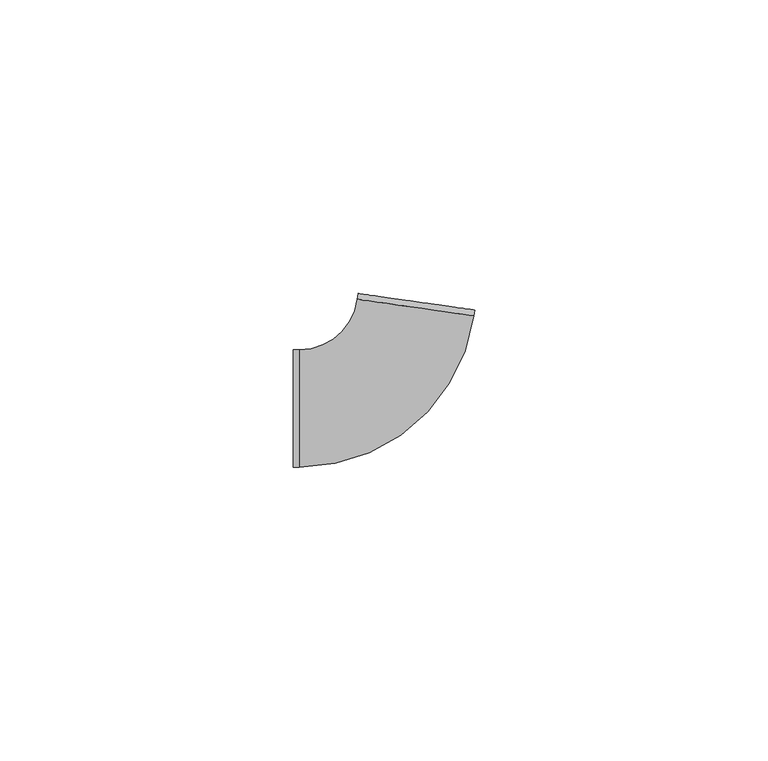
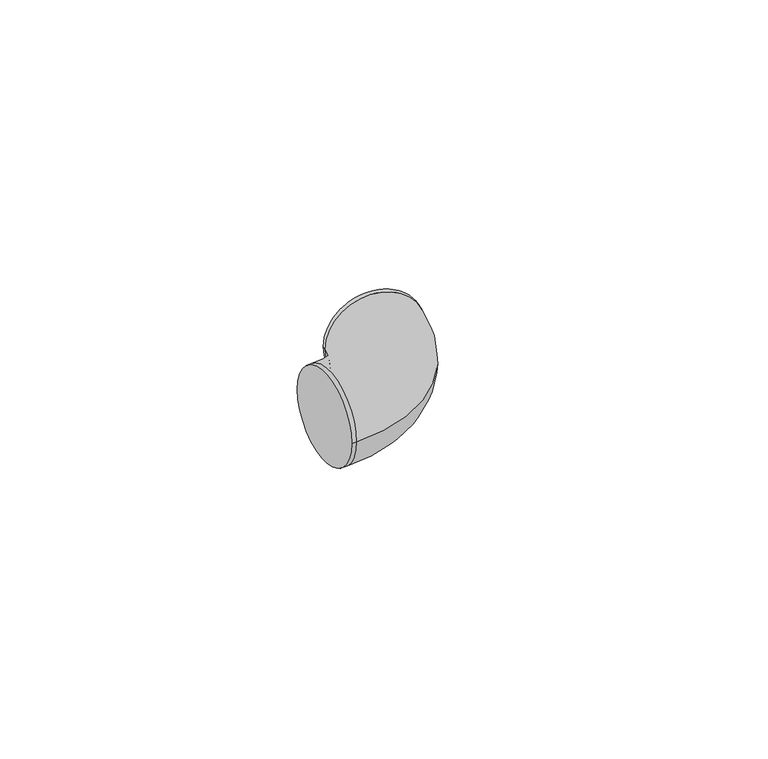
"""IFC4 building model written with IfcOpenShell, lengths in millimetres: cable carrier fitting geometry, ADSK_Поворот_Минимальный размер : Неспецифицируемый."""

import ifcopenshell
import ifcopenshell.guid

model = None  # the IFC model being written
_history = None  # IfcOwnerHistory: only IFC2X3 demands one
_inside = {}  # id of a spatial element -> (the spatial element, [elements in it])
_under = {}  # id of a project, library or spatial element -> (it, [spatial elements below it])
_declared = {}  # id of a project -> (the project, [libraries it declares])
_typed = {}  # id of a type object -> (the type object, [elements of that type])
_made_of = {}  # id of a material, layer set ... -> (it, [elements and type objects made of it])


def new_model(schema):
    """Start an empty IFC model of exactly this schema.

    Asked for "IFC4X3", IfcOpenShell would pick the latest addendum, in which some entities
    have other attributes; the version numbers below select the first issue.
    IFC2X3 requires an IfcOwnerHistory on every rooted entity: one is made here for all.
    """
    global model, _history
    if schema == "IFC4X3":
        model = ifcopenshell.file(schema_version=(4, 3, 0, 0))
    else:
        model = ifcopenshell.file(schema=schema)
    _inside.clear()
    _under.clear()
    _declared.clear()
    _typed.clear()
    _made_of.clear()
    _history = None
    if model.schema == "IFC2X3":
        org = make("IfcOrganization", Name="unknown")
        user = make(
            "IfcPersonAndOrganization",
            ThePerson=make("IfcPerson", FamilyName="unknown"),
            TheOrganization=org,
        )
        app = make(
            "IfcApplication",
            ApplicationDeveloper=org,
            Version="unknown",
            ApplicationFullName="unknown",
            ApplicationIdentifier="unknown",
        )
        _history = make(
            "IfcOwnerHistory",
            OwningUser=user,
            OwningApplication=app,
            ChangeAction="ADDED",
            CreationDate=0,
        )
    return model


def make(cls, **values):
    """One entity of the class cls with the attributes given. An attribute that is None is left unset."""
    return model.create_entity(
        cls, **{name: value for name, value in values.items() if value is not None}
    )


def rooted(cls, **values):
    """An entity with a GlobalId (a new one), such as an element, a storey or a relation."""
    return make(cls, GlobalId=ifcopenshell.guid.new(), OwnerHistory=_history, **values)


def si_unit(unit_type, name, prefix=None):
    """IfcSIUnit, for example si_unit("LENGTHUNIT", "METRE", prefix="MILLI")."""
    return make("IfcSIUnit", UnitType=unit_type, Prefix=prefix, Name=name)


def assignment(units):
    """IfcUnitAssignment: the units of a project."""
    return None if units is None else make("IfcUnitAssignment", Units=units)


def point(xyz):
    """IfcCartesianPoint."""
    return None if xyz is None else make("IfcCartesianPoint", Coordinates=xyz)


def direction(xyz):
    """IfcDirection."""
    return None if xyz is None else make("IfcDirection", DirectionRatios=xyz)


def frame(location, z_axis=None, x_axis=None):
    """IfcAxis2Placement3D, a coordinate frame: its origin and axes. An axis left out is left unset."""
    return make(
        "IfcAxis2Placement3D",
        Location=point(location),
        Axis=direction(z_axis),
        RefDirection=direction(x_axis),
    )


def origin():
    """The frame at (0, 0, 0) with its axes left unset."""
    return frame((0.0, 0.0, 0.0))


def place(relative_to, where):
    """IfcLocalPlacement: puts the frame where relative to a parent placement (None: the world)."""
    return make(
        "IfcLocalPlacement", PlacementRelTo=relative_to, RelativePlacement=where
    )


def context(
    kind, dimensions, precision=None, world=None, true_north=None, identifier=None
):
    """IfcGeometricRepresentationContext, for example the 3D "Model" context."""
    return make(
        "IfcGeometricRepresentationContext",
        ContextIdentifier=identifier,
        ContextType=kind,
        CoordinateSpaceDimension=dimensions,
        Precision=precision,
        WorldCoordinateSystem=world,
        TrueNorth=true_north,
    )


def project(units=None, contexts=None):
    """IfcProject with its units and contexts."""
    return rooted(
        "IfcProject",
        Name="project",
        RepresentationContexts=contexts,
        UnitsInContext=assignment(units),
    )


def spatial(cls, under=None, at=None, **own):
    """A site, building, storey or space (cls), placed at a placement, below another one or the project."""
    s = rooted(cls, ObjectPlacement=at, **own)
    if under is not None:
        _under.setdefault(under.id(), (under, []))[1].append(s)
    return s


def circle_curve(where, radius):
    """IfcCircle in the frame where."""
    return make("IfcCircle", Position=where, Radius=radius)


def ellipse_curve(where, semi_axis1, semi_axis2):
    """IfcEllipse in the frame where."""
    return make(
        "IfcEllipse", Position=where, SemiAxis1=semi_axis1, SemiAxis2=semi_axis2
    )


def trimmed(basis, trim1, trim2, sense, master):
    """IfcTrimmedCurve: the piece of a basis curve between two trims."""
    return make(
        "IfcTrimmedCurve",
        BasisCurve=basis,
        Trim1=trim1,
        Trim2=trim2,
        SenseAgreement=sense,
        MasterRepresentation=master,
    )


def shape(context_of_items, identifier, shape_type, items):
    """IfcShapeRepresentation: the items that make up one representation, for example the "Body"."""
    return make(
        "IfcShapeRepresentation",
        ContextOfItems=context_of_items,
        RepresentationIdentifier=identifier,
        RepresentationType=shape_type,
        Items=items,
    )


def source(mapping_origin, context_of_items, identifier, shape_type, items):
    """IfcRepresentationMap: a shape defined once, which mapped items show again and again."""
    return make(
        "IfcRepresentationMap",
        MappingOrigin=mapping_origin,
        MappedRepresentation=shape(context_of_items, identifier, shape_type, items),
    )


def transform(
    local_origin,
    x_axis=None,
    y_axis=None,
    z_axis=None,
    scale=None,
    scale2=None,
    scale3=None,
    uniform=True,
):
    """IfcCartesianTransformationOperator3D, or its non-uniform kind. x_axis, y_axis, z_axis: its Axis1, 2, 3."""
    if uniform:
        return make(
            "IfcCartesianTransformationOperator3D",
            Axis1=direction(x_axis),
            Axis2=direction(y_axis),
            LocalOrigin=point(local_origin),
            Scale=scale,
            Axis3=direction(z_axis),
        )
    return make(
        "IfcCartesianTransformationOperator3DnonUniform",
        Axis1=direction(x_axis),
        Axis2=direction(y_axis),
        LocalOrigin=point(local_origin),
        Scale=scale,
        Axis3=direction(z_axis),
        Scale2=scale2,
        Scale3=scale3,
    )


def mapped(mapping_source, mapping_target):
    """IfcMappedItem: shows the shape of a source again, moved by a transform."""
    return make(
        "IfcMappedItem", MappingSource=mapping_source, MappingTarget=mapping_target
    )


def made_of(thing, what):
    """Note that an element or type object is made of a material, layer set ...; save() writes the relation."""
    if what is not None:
        _made_of.setdefault(what.id(), (what, []))[1].append(thing)
    return thing


def element(
    cls,
    number,
    at=None,
    inside=None,
    cuts=None,
    type_object=None,
    material=None,
    context=None,
    identifier="Body",
    shape_type=None,
    held_by="IfcProductDefinitionShape",
    body=None,
    shapes=None,
    **own,
):
    """One element of the class cls, such as IfcWall. Its Tag is "e" and its number.

    at: its placement. inside: the storey or other place that contains it. cuts: it is an
    opening in that element (IfcRelVoidsElement). A single representation is given by context,
    identifier, shape_type and body (its items); several are given by shapes. held_by: the class
    of the entity that holds the representations. save() writes the other relations.
    """
    e = rooted(cls, Tag="e%d" % number, ObjectPlacement=at, **own)
    if body is not None:
        shapes = [shape(context, identifier, shape_type, body)]
    if shapes is not None:
        e.Representation = make(held_by, Representations=shapes)
    if inside is not None:
        _inside.setdefault(inside.id(), (inside, []))[1].append(e)
    if cuts is not None:
        rooted(
            "IfcRelVoidsElement", RelatingBuildingElement=cuts, RelatedOpeningElement=e
        )
    if type_object is not None:
        _typed.setdefault(type_object.id(), (type_object, []))[1].append(e)
    return made_of(e, material)


def aggregate(whole, parts):
    """IfcRelAggregates: a whole, such as a stair, and the parts it consists of."""
    return rooted("IfcRelAggregates", RelatingObject=whole, RelatedObjects=parts)


def save(model, path):
    """Write the relations noted so far, then the file.

    IfcRelAggregates (storeys below a building ...), IfcRelContainedInSpatialStructure (elements
    in a storey), IfcRelDefinesByType, IfcRelAssociatesMaterial and IfcRelDeclares: one each for
    every whole, place, type object, material and project.
    """
    for whole, parts in _under.values():
        aggregate(whole, parts)
    for where, things in _inside.values():
        rooted(
            "IfcRelContainedInSpatialStructure",
            RelatedElements=things,
            RelatingStructure=where,
        )
    for kind, things in _typed.values():
        rooted("IfcRelDefinesByType", RelatedObjects=things, RelatingType=kind)
    for what, things in _made_of.values():
        rooted("IfcRelAssociatesMaterial", RelatedObjects=things, RelatingMaterial=what)
    for by, libraries in _declared.values():
        rooted("IfcRelDeclares", RelatingContext=by, RelatedDefinitions=libraries)
    model.write(path)


def plane_surface(at):
    """IfcPlane: the flat surface through the origin of the frame at, square to its z axis."""
    return make("IfcPlane", Position=at)


def cylinder_surface(at, radius):
    """IfcCylindricalSurface: all points at the distance radius from the z axis of the frame at."""
    return make("IfcCylindricalSurface", Position=at, Radius=radius)


def revolved_surface(curve, axis_point, axis_direction):
    """IfcSurfaceOfRevolution: the curve turned about the line through axis_point along axis_direction."""
    return make(
        "IfcSurfaceOfRevolution",
        SweptCurve=make("IfcArbitraryOpenProfileDef", ProfileType="CURVE", Curve=curve),
        AxisPosition=make("IfcAxis1Placement", Location=point(axis_point), Axis=direction(axis_direction)),
    )


def advanced_brep(points, edges, surfaces, faces):
    """IfcAdvancedBrep: a solid bounded by faces that lie on surfaces and meet in shared edges.

    An edge is (start, end): straight between two places in points (the first is 0);
    or (start, end, curve); or (start, end, curve, False) where it runs against its curve.
    A face is (place in surfaces, loops), or (place, loops, False) where it looks against
    its surface's normal. A loop lists edges by number (the first is 1), with a minus sign
    where the edge is run from its end to its start. The first loop is the outer one.
    """
    corners = [point(p) for p in points]
    vertices = [make("IfcVertexPoint", VertexGeometry=c) for c in corners]
    made = []
    for start, end, *more in edges:
        made.append(
            make(
                "IfcEdgeCurve",
                EdgeStart=vertices[start],
                EdgeEnd=vertices[end],
                EdgeGeometry=more[0] if more else make("IfcPolyline", Points=[corners[start], corners[end]]),
                SameSense=more[1] if len(more) > 1 else True,
            )
        )
    hull = []
    for where, loops, *sense in faces:
        bounds = []
        for j, loop in enumerate(loops):
            ring = [make("IfcOrientedEdge", EdgeElement=made[abs(k) - 1], Orientation=k > 0) for k in loop]
            bounds.append(
                make(
                    "IfcFaceOuterBound" if j == 0 else "IfcFaceBound",
                    Bound=make("IfcEdgeLoop", EdgeList=ring),
                    Orientation=True,
                )
            )
        hull.append(make("IfcAdvancedFace", Bounds=bounds, FaceSurface=surfaces[where], SameSense=sense[0] if sense else True))
    return make("IfcAdvancedBrep", Outer=make("IfcClosedShell", CfsFaces=hull))


def cable_carrier_fitting_512a3dd7(model_context):
    return source(origin(), model_context, "Body", "AdvancedBrep", [
        advanced_brep(
        [(-18.3509049, -10.0, 0.0), (-18.3509049, 10.0, 0.0), (-17.3509049, -10.0, 0.0), (-17.3509049, 10.0, 0.0), (-7.4510072, 18.5886093, 0.0), (12.3487884, 15.7658278, 0.0), (12.4899275, 16.7558176, 0.0), (-7.3098681, 19.5785991, 0.0)],
        [
            (0, 1, circle_curve(frame((-18.3509049, 0.0, 0.0), z_axis=(-1.0, -4.92260399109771e-12, 0.0), x_axis=(-4.92260399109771e-12, 1.0, 0.0)), 10.0)),
            (1, 0, circle_curve(frame((-18.3509049, 0.0, 0.0), z_axis=(-1.0, -4.92260399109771e-12, 0.0), x_axis=(-4.92260399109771e-12, 1.0, 0.0)), 10.0)),
            (0, 2),
            (2, 3, circle_curve(frame((-17.3509049, 0.0, 0.0), z_axis=(-1.0, -4.92260399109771e-12, 0.0), x_axis=(-4.92260399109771e-12, 1.0, 0.0)), 10.0)),
            (3, 1),
            (3, 2, circle_curve(frame((-17.3509049, 0.0, 0.0), z_axis=(-1.0, -4.92260399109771e-12, 0.0), x_axis=(-4.92260399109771e-12, 1.0, 0.0)), 10.0)),
            (4, 3, circle_curve(frame((-17.3509049, 20.0, 0.0), z_axis=(0.0, 0.0, -1.0), x_axis=(0.0, -1.0, 0.0)), 10.0)),
            (2, 5, circle_curve(frame((-17.3509049, 20.0, 0.0), z_axis=(0.0, 0.0, 1.0), x_axis=(0.0, -1.0, 0.0)), 30.0)),
            (5, 4, circle_curve(frame((2.4488906, 17.1772186, 0.0), z_axis=(-0.14113907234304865, -0.989989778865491, 0.0), x_axis=(-0.989989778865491, 0.14113907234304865, 0.0)), 10.0)),
            (4, 5, circle_curve(frame((2.4488906, 17.1772186, 0.0), z_axis=(-0.14113907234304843, -0.989989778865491, 0.0), x_axis=(-0.989989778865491, 0.14113907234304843, 0.0)), 10.0)),
            (6, 7, circle_curve(frame((2.5900297, 18.1672083, 0.0), z_axis=(0.1411390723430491, 0.9899897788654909, 0.0), x_axis=(-0.9899897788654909, 0.1411390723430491, 0.0)), 10.0)),
            (7, 6, circle_curve(frame((2.5900297, 18.1672083, 0.0), z_axis=(0.1411390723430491, 0.9899897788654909, 0.0), x_axis=(-0.9899897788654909, 0.1411390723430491, 0.0)), 10.0)),
            (5, 6),
            (7, 4),
        ],
        [
            plane_surface(frame((-18.3509049, 0.0, 0.0), z_axis=(-1.0, -4.92260399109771e-12, 0.0), x_axis=(0.0, 0.0, 1.0))),
            cylinder_surface(frame((-18.3509049, 0.0, 0.0), z_axis=(-1.0, -4.92260399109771e-12, 0.0), x_axis=(-4.92260399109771e-12, 1.0, 0.0)), 10.0),
            revolved_surface(trimmed(ellipse_curve(frame((-17.3509049, 0.0, 0.0), z_axis=(-1.0, 0.0, 0.0), x_axis=(0.0, 1.0, 0.0)), 10.0, 10.0), [point((-17.3509049, -10.0, 0.0))], [point((-17.3509049, 10.0, 0.0))], True, "CARTESIAN"), (-17.3509049, 20.0, 0.0), (0.0, 0.0, 1.0)),
            revolved_surface(trimmed(ellipse_curve(frame((-17.3509049, 0.0, 0.0), z_axis=(-1.0, 0.0, 0.0), x_axis=(0.0, 1.0, 0.0)), 10.0, 10.0), [point((-17.3509049, 10.0, 0.0))], [point((-17.3509049, -10.0, 0.0))], True, "CARTESIAN"), (-17.3509049, 20.0, 0.0), (0.0, 0.0, 1.0)),
            plane_surface(frame((2.5900297, 18.1672083, 0.0), z_axis=(0.1411390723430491, 0.9899897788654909, 0.0), x_axis=(0.0, 0.0, 1.0))),
            cylinder_surface(frame((2.4488906, 17.1772186, 0.0), z_axis=(-0.1411390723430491, -0.9899897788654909, 0.0), x_axis=(-0.9899897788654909, 0.1411390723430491, 0.0)), 10.0),
        ],
        [
            (0, [[1, 2]]),
            (1, [[-1, 3, 4, 5]]),
            (1, [[-2, -5, 6, -3]]),
            (2, [[7, -4, 8, 9]]),
            (3, [[-8, -6, -7, 10]]),
            (4, [[11, 12]]),
            (5, [[-9, 13, -12, 14]]),
            (5, [[-10, -14, -11, -13]]),
        ],
    ),
    ])


if __name__ == "__main__":
    model = new_model("IFC4")
    model_context = context("Model", 3, world=origin())
    ifc_project = project(units=[si_unit("LENGTHUNIT", "METRE", prefix="MILLI")], contexts=[model_context])
    site = spatial("IfcSite", under=ifc_project)
    building = spatial("IfcBuilding", under=site)
    placement = place(None, origin())
    cable_carrier_fitting_shape = cable_carrier_fitting_512a3dd7(model_context)
    element("IfcCableCarrierFitting", 1, ObjectType="ADSK_Поворот_Минимальный размер : Неспецифицируемый", at=placement, inside=building, context=model_context, shape_type="MappedRepresentation", body=[
        mapped(cable_carrier_fitting_shape, transform((0.0, 0.0, 0.0), x_axis=(1.0, 0.0, 0.0), y_axis=(0.0, 1.0, 0.0), z_axis=(0.0, 0.0, 1.0))),
    ])
    save(model, "model.ifc")
